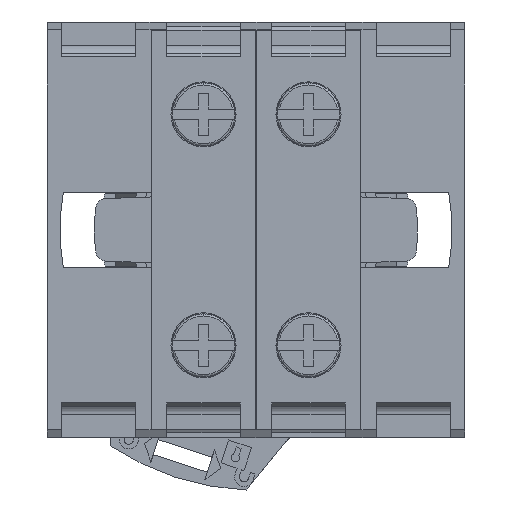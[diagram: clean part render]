
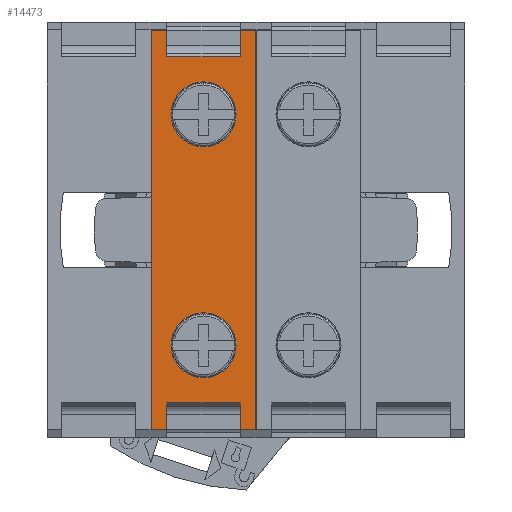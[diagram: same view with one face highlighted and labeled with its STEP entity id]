
A CAD part, front view. The second image highlights one B-rep face of the part: STEP entity #14473.
In plain terms, the highlighted planar face has unit normal (0, -1, 0).
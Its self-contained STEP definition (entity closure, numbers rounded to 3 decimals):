
#109 = VECTOR ( 'NONE', #9847, 1000. ) ;
#119 = LINE ( 'NONE', #6591, #6089 ) ;
#517 = CIRCLE ( 'NONE', #6667, 3.1 ) ;
#588 = LINE ( 'NONE', #13674, #6547 ) ;
#685 = DIRECTION ( 'NONE',  ( 1., 0., 0. ) ) ;
#722 = CARTESIAN_POINT ( 'NONE',  ( 19., -12.75, 3.5 ) ) ;
#857 = EDGE_CURVE ( 'NONE', #9138, #1484, #3898, .T. ) ;
#895 = PLANE ( 'NONE',  #5136 ) ;
#915 = EDGE_CURVE ( 'NONE', #2818, #3497, #6310, .T. ) ;
#943 = DIRECTION ( 'NONE',  ( -1., 0., 0. ) ) ;
#1331 = ORIENTED_EDGE ( 'NONE', *, *, #12373, .T. ) ;
#1348 = CARTESIAN_POINT ( 'NONE',  ( 19., -12.75, 4.95 ) ) ;
#1386 = ORIENTED_EDGE ( 'NONE', *, *, #12737, .T. ) ;
#1407 = EDGE_CURVE ( 'NONE', #9682, #7294, #7238, .T. ) ;
#1432 = VECTOR ( 'NONE', #4220, 1000. ) ;
#1484 = VERTEX_POINT ( 'NONE', #13562 ) ;
#1506 = VECTOR ( 'NONE', #1584, 1000. ) ;
#1584 = DIRECTION ( 'NONE',  ( 0., 0., -1. ) ) ;
#1919 = VERTEX_POINT ( 'NONE', #6108 ) ;
#2189 = DIRECTION ( 'NONE',  ( -1., 0., 0. ) ) ;
#2476 = ORIENTED_EDGE ( 'NONE', *, *, #9050, .F. ) ;
#2681 = DIRECTION ( 'NONE',  ( 0., -1., 0. ) ) ;
#2748 = CARTESIAN_POINT ( 'NONE',  ( -7.9, -12.75, 0. ) ) ;
#2768 = EDGE_CURVE ( 'NONE', #7181, #13881, #4827, .T. ) ;
#2818 = VERTEX_POINT ( 'NONE', #10469 ) ;
#2866 = EDGE_CURVE ( 'NONE', #1919, #8878, #6897, .T. ) ;
#2970 = CARTESIAN_POINT ( 'NONE',  ( 16.495, -12.75, -3.5 ) ) ;
#3050 = AXIS2_PLACEMENT_3D ( 'NONE', #6719, #15065, #7925 ) ;
#3092 = LINE ( 'NONE', #4543, #6252 ) ;
#3306 = DIRECTION ( 'NONE',  ( 1., 0., 0. ) ) ;
#3497 = VERTEX_POINT ( 'NONE', #14370 ) ;
#3626 = FACE_BOUND ( 'NONE', #6970, .T. ) ;
#3721 = EDGE_CURVE ( 'NONE', #9724, #14271, #4451, .T. ) ;
#3898 = CIRCLE ( 'NONE', #3050, 3.1 ) ;
#3998 = VERTEX_POINT ( 'NONE', #722 ) ;
#4220 = DIRECTION ( 'NONE',  ( 0., 0., 1. ) ) ;
#4451 = CIRCLE ( 'NONE', #10870, 3.1 ) ;
#4543 = CARTESIAN_POINT ( 'NONE',  ( 19., -12.75, -3.5 ) ) ;
#4827 = LINE ( 'NONE', #13962, #5200 ) ;
#5136 = AXIS2_PLACEMENT_3D ( 'NONE', #9243, #10427, #3306 ) ;
#5200 = VECTOR ( 'NONE', #6831, 1000. ) ;
#5277 = ORIENTED_EDGE ( 'NONE', *, *, #15459, .F. ) ;
#5344 = ORIENTED_EDGE ( 'NONE', *, *, #10597, .F. ) ;
#5423 = ORIENTED_EDGE ( 'NONE', *, *, #2866, .T. ) ;
#5497 = VECTOR ( 'NONE', #8639, 1000. ) ;
#5634 = VERTEX_POINT ( 'NONE', #14313 ) ;
#5645 = DIRECTION ( 'NONE',  ( 0., 1., 0. ) ) ;
#5679 = ORIENTED_EDGE ( 'NONE', *, *, #857, .T. ) ;
#5759 = CARTESIAN_POINT ( 'NONE',  ( 19., -12.75, 3.5 ) ) ;
#6015 = CARTESIAN_POINT ( 'NONE',  ( -19., -12.75, -4.95 ) ) ;
#6045 = VECTOR ( 'NONE', #2189, 1000. ) ;
#6089 = VECTOR ( 'NONE', #12535, 1000. ) ;
#6108 = CARTESIAN_POINT ( 'NONE',  ( 19., -12.75, -4.95 ) ) ;
#6206 = CARTESIAN_POINT ( 'NONE',  ( 19., -12.75, -3.5 ) ) ;
#6252 = VECTOR ( 'NONE', #943, 1000. ) ;
#6310 = LINE ( 'NONE', #11563, #15460 ) ;
#6441 = LINE ( 'NONE', #8710, #109 ) ;
#6547 = VECTOR ( 'NONE', #14888, 1000. ) ;
#6591 = CARTESIAN_POINT ( 'NONE',  ( -19., -12.75, -4.95 ) ) ;
#6667 = AXIS2_PLACEMENT_3D ( 'NONE', #14979, #7821, #685 ) ;
#6719 = CARTESIAN_POINT ( 'NONE',  ( 11., -12.75, 0. ) ) ;
#6831 = DIRECTION ( 'NONE',  ( -1., 0., 0. ) ) ;
#6897 = LINE ( 'NONE', #12985, #12858 ) ;
#6970 = EDGE_LOOP ( 'NONE', ( #14622, #13366 ) ) ;
#7169 = FACE_OUTER_BOUND ( 'NONE', #12802, .T. ) ;
#7181 = VERTEX_POINT ( 'NONE', #11880 ) ;
#7238 = LINE ( 'NONE', #13357, #13181 ) ;
#7294 = VERTEX_POINT ( 'NONE', #1348 ) ;
#7374 = CARTESIAN_POINT ( 'NONE',  ( -19., -12.75, 4.95 ) ) ;
#7717 = CARTESIAN_POINT ( 'NONE',  ( -19., -12.75, -4.95 ) ) ;
#7807 = EDGE_LOOP ( 'NONE', ( #5679, #1331 ) ) ;
#7821 = DIRECTION ( 'NONE',  ( 0., -1., 0. ) ) ;
#7925 = DIRECTION ( 'NONE',  ( -1., 0., 0. ) ) ;
#8459 = EDGE_CURVE ( 'NONE', #14271, #9724, #517, .T. ) ;
#8558 = ORIENTED_EDGE ( 'NONE', *, *, #915, .F. ) ;
#8639 = DIRECTION ( 'NONE',  ( 1., 0., 0. ) ) ;
#8710 = CARTESIAN_POINT ( 'NONE',  ( 19., -12.75, -4.95 ) ) ;
#8878 = VERTEX_POINT ( 'NONE', #6206 ) ;
#9013 = VERTEX_POINT ( 'NONE', #2970 ) ;
#9048 = LINE ( 'NONE', #12191, #5497 ) ;
#9050 = EDGE_CURVE ( 'NONE', #12563, #13881, #11309, .T. ) ;
#9100 = AXIS2_PLACEMENT_3D ( 'NONE', #12801, #5645, #13988 ) ;
#9138 = VERTEX_POINT ( 'NONE', #9769 ) ;
#9243 = CARTESIAN_POINT ( 'NONE',  ( 19., -12.75, -4.95 ) ) ;
#9296 = EDGE_CURVE ( 'NONE', #3497, #9682, #119, .T. ) ;
#9682 = VERTEX_POINT ( 'NONE', #7374 ) ;
#9724 = VERTEX_POINT ( 'NONE', #14503 ) ;
#9769 = CARTESIAN_POINT ( 'NONE',  ( 14.1, -12.75, 0. ) ) ;
#9772 = EDGE_CURVE ( 'NONE', #3998, #7294, #6441, .T. ) ;
#9801 = CARTESIAN_POINT ( 'NONE',  ( -11., -12.75, 0. ) ) ;
#9847 = DIRECTION ( 'NONE',  ( 0., 0., 1. ) ) ;
#9947 = FACE_BOUND ( 'NONE', #7807, .T. ) ;
#9949 = EDGE_CURVE ( 'NONE', #8878, #9013, #3092, .T. ) ;
#10063 = CIRCLE ( 'NONE', #9100, 3.1 ) ;
#10427 = DIRECTION ( 'NONE',  ( 0., -1., 0. ) ) ;
#10469 = CARTESIAN_POINT ( 'NONE',  ( -16.495, -12.75, 3.5 ) ) ;
#10597 = EDGE_CURVE ( 'NONE', #3998, #5634, #12385, .T. ) ;
#10710 = ORIENTED_EDGE ( 'NONE', *, *, #13737, .T. ) ;
#10870 = AXIS2_PLACEMENT_3D ( 'NONE', #9801, #2681, #10998 ) ;
#10998 = DIRECTION ( 'NONE',  ( 1., 0., 0. ) ) ;
#11065 = ORIENTED_EDGE ( 'NONE', *, *, #2768, .T. ) ;
#11121 = CARTESIAN_POINT ( 'NONE',  ( -16.495, -12.75, -4.95 ) ) ;
#11309 = LINE ( 'NONE', #7717, #1432 ) ;
#11334 = CARTESIAN_POINT ( 'NONE',  ( -19., -12.75, -3.5 ) ) ;
#11563 = CARTESIAN_POINT ( 'NONE',  ( 19., -12.75, 3.5 ) ) ;
#11880 = CARTESIAN_POINT ( 'NONE',  ( -16.495, -12.75, -3.5 ) ) ;
#11973 = ORIENTED_EDGE ( 'NONE', *, *, #1407, .F. ) ;
#12191 = CARTESIAN_POINT ( 'NONE',  ( 19., -12.75, -4.95 ) ) ;
#12373 = EDGE_CURVE ( 'NONE', #1484, #9138, #10063, .T. ) ;
#12385 = LINE ( 'NONE', #5759, #6045 ) ;
#12535 = DIRECTION ( 'NONE',  ( 0., 0., 1. ) ) ;
#12563 = VERTEX_POINT ( 'NONE', #6015 ) ;
#12737 = EDGE_CURVE ( 'NONE', #2818, #7181, #14199, .T. ) ;
#12801 = CARTESIAN_POINT ( 'NONE',  ( 11., -12.75, 0. ) ) ;
#12802 = EDGE_LOOP ( 'NONE', ( #5344, #13151, #11973, #13599, #8558, #1386, #11065, #2476, #10710, #5423, #13141, #5277 ) ) ;
#12858 = VECTOR ( 'NONE', #14182, 1000. ) ;
#12985 = CARTESIAN_POINT ( 'NONE',  ( 19., -12.75, -4.95 ) ) ;
#13141 = ORIENTED_EDGE ( 'NONE', *, *, #9949, .T. ) ;
#13151 = ORIENTED_EDGE ( 'NONE', *, *, #9772, .T. ) ;
#13181 = VECTOR ( 'NONE', #14523, 1000. ) ;
#13357 = CARTESIAN_POINT ( 'NONE',  ( 19., -12.75, 4.95 ) ) ;
#13366 = ORIENTED_EDGE ( 'NONE', *, *, #3721, .F. ) ;
#13562 = CARTESIAN_POINT ( 'NONE',  ( 7.9, -12.75, 0. ) ) ;
#13599 = ORIENTED_EDGE ( 'NONE', *, *, #9296, .F. ) ;
#13674 = CARTESIAN_POINT ( 'NONE',  ( 16.495, -12.75, -4.95 ) ) ;
#13737 = EDGE_CURVE ( 'NONE', #12563, #1919, #9048, .T. ) ;
#13881 = VERTEX_POINT ( 'NONE', #11334 ) ;
#13961 = DIRECTION ( 'NONE',  ( -1., 0., 0. ) ) ;
#13962 = CARTESIAN_POINT ( 'NONE',  ( 19., -12.75, -3.5 ) ) ;
#13988 = DIRECTION ( 'NONE',  ( -1., 0., 0. ) ) ;
#14182 = DIRECTION ( 'NONE',  ( 0., 0., 1. ) ) ;
#14199 = LINE ( 'NONE', #11121, #1506 ) ;
#14271 = VERTEX_POINT ( 'NONE', #2748 ) ;
#14313 = CARTESIAN_POINT ( 'NONE',  ( 16.495, -12.75, 3.5 ) ) ;
#14370 = CARTESIAN_POINT ( 'NONE',  ( -19., -12.75, 3.5 ) ) ;
#14473 = ADVANCED_FACE ( 'NONE', ( #7169, #3626, #9947 ), #895, .T. ) ;
#14503 = CARTESIAN_POINT ( 'NONE',  ( -14.1, -12.75, 0. ) ) ;
#14523 = DIRECTION ( 'NONE',  ( 1., 0., 0. ) ) ;
#14622 = ORIENTED_EDGE ( 'NONE', *, *, #8459, .F. ) ;
#14888 = DIRECTION ( 'NONE',  ( 0., 0., -1. ) ) ;
#14979 = CARTESIAN_POINT ( 'NONE',  ( -11., -12.75, 0. ) ) ;
#15065 = DIRECTION ( 'NONE',  ( 0., 1., 0. ) ) ;
#15459 = EDGE_CURVE ( 'NONE', #5634, #9013, #588, .T. ) ;
#15460 = VECTOR ( 'NONE', #13961, 1000. ) ;
